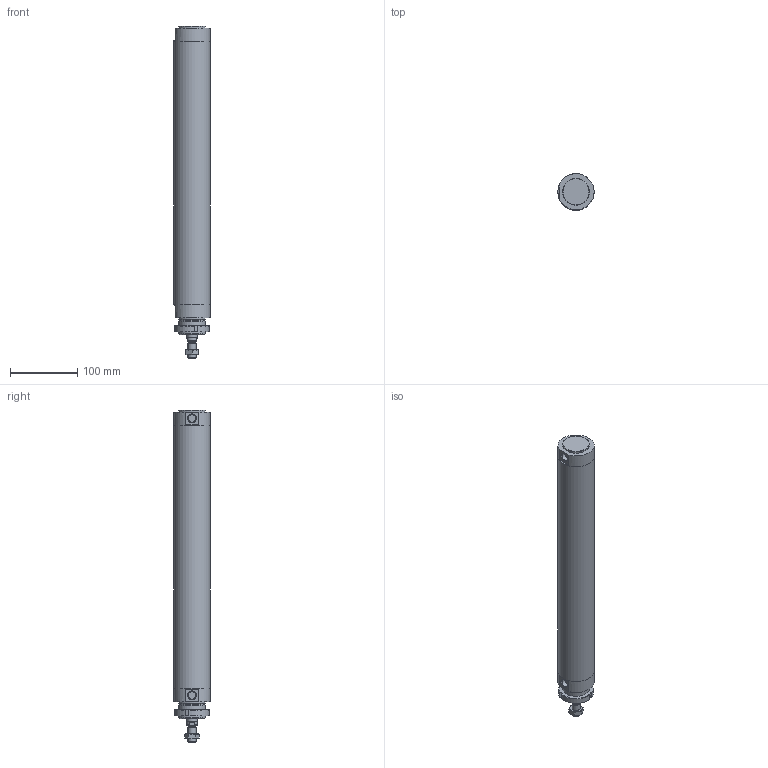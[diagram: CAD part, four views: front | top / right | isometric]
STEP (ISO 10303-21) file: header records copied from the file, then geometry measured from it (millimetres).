
FILE_DESCRIPTION(/* description */ (''),/* implementation_level */ '2;1');
FILE_NAME(/* name */ 'I:\Area Tecnica\Documenti\A-Manieri\_Inventor\12X\12X#D_###_####_#_#\12XAD_050_0350_#_#.stp',/* time_stamp */ '2015-04-29T16:44:35+02:00',/* author */ ('maniean1'),/* organization */ ('Pneumax S.p.A.'),/* preprocessor_version */ 'ST-DEVELOPER v15.2',/* originating_system */ 'Autodesk Inventor 2014',/* authorisation */ '');
FILE_SCHEMA (('AUTOMOTIVE_DESIGN { 1 0 10303 214 3 1 1 }'));
Length unit declared in the file: millimetre
Products named in the file (7): C1250_619-0350; 12X50_604; S12X50_0350; 12X_50_11; 12X50_611; G12X_050_05; 12XAD_050_0350_#_#
Bounding box: 54 x 54 x 495 mm (x, y, z)
Volume: 420195 mm3; surface area: 187478.6 mm2
Topology: 6 solids, 6 shells, 81 faces, 175 edges, 112 vertices
Faces by surface type: plane 41, cylinder 21, cone 19
Full cylindrical faces by diameter (mm): 10.2 x1, 11.4 x2, 12 x2, 14 x1, 15.6 x1, 16 x1, 38.2 x1, 40 x4, 50 x2, 54 x3
Entity records: 2155 total; most frequent: CARTESIAN_POINT 400, DIRECTION 364, ORIENTED_EDGE 284, AXIS2_PLACEMENT_3D 156, EDGE_CURVE 142, EDGE_LOOP 124, VERTEX_POINT 108, ADVANCED_FACE 81
